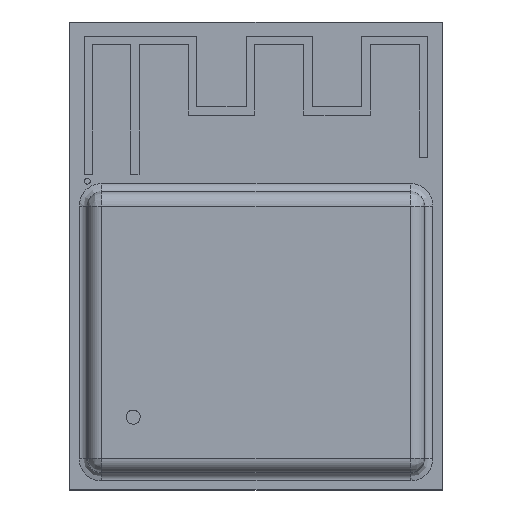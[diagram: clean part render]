
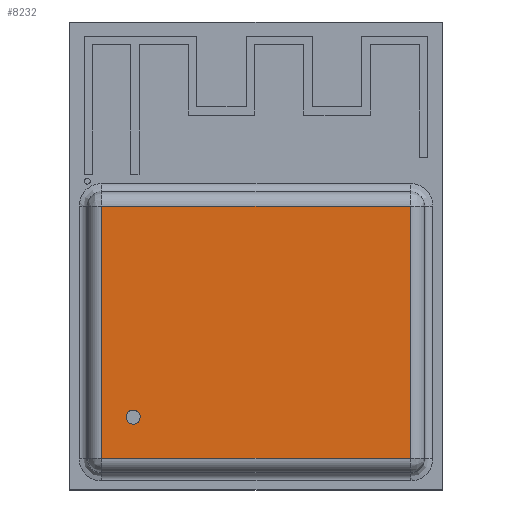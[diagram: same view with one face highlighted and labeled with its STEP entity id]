
A CAD part, top view. The second image highlights one B-rep face of the part: STEP entity #8232.
In plain terms, the highlighted planar face has unit normal (0, 0, 1).
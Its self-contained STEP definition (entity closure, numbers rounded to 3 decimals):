
#468 = EDGE_CURVE ( 'NONE', #10794, #11647, #9235, .T. ) ;
#566 = CARTESIAN_POINT ( 'NONE',  ( -4.484, -5.491, 2.5 ) ) ;
#734 = CARTESIAN_POINT ( 'NONE',  ( -4.595, -5.641, 2.5 ) ) ;
#781 = CARTESIAN_POINT ( 'NONE',  ( -4.576, -5.592, 2.5 ) ) ;
#1475 = CARTESIAN_POINT ( 'NONE',  ( -4.579, -5.847, 2.5 ) ) ;
#1551 = EDGE_CURVE ( 'NONE', #10794, #11647, #11305, .T. ) ;
#1570 = ORIENTED_EDGE ( 'NONE', *, *, #12498, .F. ) ;
#1588 = CARTESIAN_POINT ( 'NONE',  ( -4.487, -5.94, 2.5 ) ) ;
#1894 = VECTOR ( 'NONE', #6955, 1000. ) ;
#2083 = CARTESIAN_POINT ( 'NONE',  ( -4.426, -5.466, 2.5 ) ) ;
#2084 = CARTESIAN_POINT ( 'NONE',  ( -5.475, 2.27, 2.5 ) ) ;
#2138 = DIRECTION ( 'NONE',  ( 0., 1., 0. ) ) ;
#2308 = VERTEX_POINT ( 'NONE', #6120 ) ;
#2817 = CARTESIAN_POINT ( 'NONE',  ( -4.606, -5.716, 2.5 ) ) ;
#2907 = DIRECTION ( 'NONE',  ( 1., 0., 0. ) ) ;
#3000 = VECTOR ( 'NONE', #5186, 1000. ) ;
#3205 = CARTESIAN_POINT ( 'NONE',  ( -4.106, -5.716, 2.5 ) ) ;
#3206 = PLANE ( 'NONE',  #5644 ) ;
#3218 = CARTESIAN_POINT ( 'NONE',  ( -4.106, -5.716, 2.5 ) ) ;
#3745 = VERTEX_POINT ( 'NONE', #14583 ) ;
#3774 = CARTESIAN_POINT ( 'NONE',  ( -4.606, -5.716, 2.5 ) ) ;
#4478 = CARTESIAN_POINT ( 'NONE',  ( -4.605, -5.685, 2.5 ) ) ;
#4487 = ORIENTED_EDGE ( 'NONE', *, *, #11082, .F. ) ;
#4543 = CARTESIAN_POINT ( 'NONE',  ( -4.287, -5.467, 2.5 ) ) ;
#5186 = DIRECTION ( 'NONE',  ( 0., -1., 0. ) ) ;
#5415 = EDGE_CURVE ( 'NONE', #15312, #13369, #8343, .T. ) ;
#5644 = AXIS2_PLACEMENT_3D ( 'NONE', #7209, #8591, #7271 ) ;
#5715 = CARTESIAN_POINT ( 'NONE',  ( -4.606, -5.782, 2.5 ) ) ;
#5731 = ORIENTED_EDGE ( 'NONE', *, *, #10273, .F. ) ;
#6120 = CARTESIAN_POINT ( 'NONE',  ( 5.475, 1.77, 2.5 ) ) ;
#6347 = ORIENTED_EDGE ( 'NONE', *, *, #468, .F. ) ;
#6955 = DIRECTION ( 'NONE',  ( -1., 0., 0. ) ) ;
#7089 = LINE ( 'NONE', #9371, #1894 ) ;
#7157 = CARTESIAN_POINT ( 'NONE',  ( -4.131, -5.589, 2.5 ) ) ;
#7209 = CARTESIAN_POINT ( 'NONE',  ( 0., 0., 2.5 ) ) ;
#7259 = FACE_BOUND ( 'NONE', #7456, .T. ) ;
#7271 = DIRECTION ( 'NONE',  ( -1., 0., 0. ) ) ;
#7456 = EDGE_LOOP ( 'NONE', ( #10060, #6347 ) ) ;
#7859 = FACE_OUTER_BOUND ( 'NONE', #8563, .T. ) ;
#7881 = CARTESIAN_POINT ( 'NONE',  ( -4.106, -5.716, 2.5 ) ) ;
#7895 = CARTESIAN_POINT ( 'NONE',  ( -4.291, -5.966, 2.5 ) ) ;
#8210 = CARTESIAN_POINT ( 'NONE',  ( -4.558, -5.564, 2.5 ) ) ;
#8232 = ADVANCED_FACE ( 'NONE', ( #7259, #7859 ), #3206, .F. ) ;
#8280 = CARTESIAN_POINT ( 'NONE',  ( -4.422, -5.966, 2.5 ) ) ;
#8343 = LINE ( 'NONE', #2084, #9682 ) ;
#8563 = EDGE_LOOP ( 'NONE', ( #5731, #15559, #4487, #1570 ) ) ;
#8591 = DIRECTION ( 'NONE',  ( 0., 0., -1. ) ) ;
#9005 = CARTESIAN_POINT ( 'NONE',  ( -5.475, -7.18, 2.5 ) ) ;
#9235 = B_SPLINE_CURVE_WITH_KNOTS ( 'NONE', 3,
 ( #2817, #5715, #1475, #1588, #8280, #7895, #11671, #13227, #9513, #3218 ),
 .UNSPECIFIED., .F., .F.,
 ( 4, 2, 2, 2, 4 ),
 ( 0., 0.25, 0.5, 0.75, 1. ),
 .UNSPECIFIED. ) ;
#9371 = CARTESIAN_POINT ( 'NONE',  ( -5.975, -7.18, 2.5 ) ) ;
#9457 = CARTESIAN_POINT ( 'NONE',  ( -4.106, -5.648, 2.5 ) ) ;
#9513 = CARTESIAN_POINT ( 'NONE',  ( -4.106, -5.782, 2.5 ) ) ;
#9682 = VECTOR ( 'NONE', #2138, 1000. ) ;
#9729 = LINE ( 'NONE', #15326, #3000 ) ;
#10060 = ORIENTED_EDGE ( 'NONE', *, *, #1551, .T. ) ;
#10273 = EDGE_CURVE ( 'NONE', #13369, #2308, #16006, .T. ) ;
#10794 = VERTEX_POINT ( 'NONE', #3774 ) ;
#10941 = CARTESIAN_POINT ( 'NONE',  ( -4.228, -5.491, 2.5 ) ) ;
#11082 = EDGE_CURVE ( 'NONE', #3745, #15312, #7089, .T. ) ;
#11305 = B_SPLINE_CURVE_WITH_KNOTS ( 'NONE', 3,
 ( #11985, #15742, #4478, #13320, #734, #781, #8210, #566, #2083, #4543, #10941, #7157, #9457, #3205 ),
 .UNSPECIFIED., .F., .F.,
 ( 4, 2, 2, 2, 2, 2, 4 ),
 ( 0., 0.062, 0.125, 0.25, 0.5, 0.75, 1. ),
 .UNSPECIFIED. ) ;
#11647 = VERTEX_POINT ( 'NONE', #7881 ) ;
#11671 = CARTESIAN_POINT ( 'NONE',  ( -4.226, -5.94, 2.5 ) ) ;
#11699 = CARTESIAN_POINT ( 'NONE',  ( -5.975, 1.77, 2.5 ) ) ;
#11985 = CARTESIAN_POINT ( 'NONE',  ( -4.606, -5.716, 2.5 ) ) ;
#12358 = CARTESIAN_POINT ( 'NONE',  ( -5.475, 1.77, 2.5 ) ) ;
#12498 = EDGE_CURVE ( 'NONE', #2308, #3745, #9729, .T. ) ;
#12667 = VECTOR ( 'NONE', #2907, 1000. ) ;
#13227 = CARTESIAN_POINT ( 'NONE',  ( -4.133, -5.847, 2.5 ) ) ;
#13320 = CARTESIAN_POINT ( 'NONE',  ( -4.599, -5.654, 2.5 ) ) ;
#13369 = VERTEX_POINT ( 'NONE', #12358 ) ;
#14583 = CARTESIAN_POINT ( 'NONE',  ( 5.475, -7.18, 2.5 ) ) ;
#15312 = VERTEX_POINT ( 'NONE', #9005 ) ;
#15326 = CARTESIAN_POINT ( 'NONE',  ( 5.475, 2.27, 2.5 ) ) ;
#15559 = ORIENTED_EDGE ( 'NONE', *, *, #5415, .F. ) ;
#15742 = CARTESIAN_POINT ( 'NONE',  ( -4.606, -5.701, 2.5 ) ) ;
#16006 = LINE ( 'NONE', #11699, #12667 ) ;
